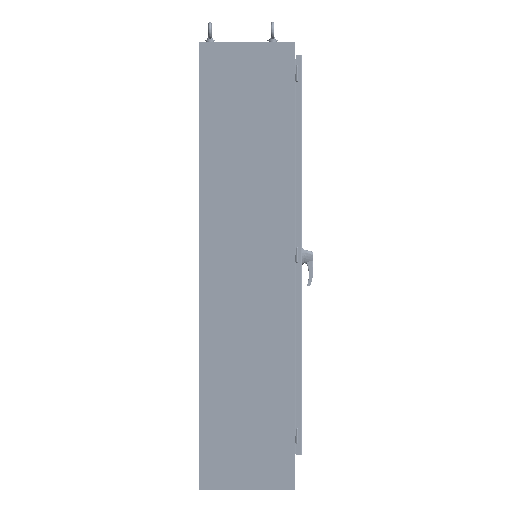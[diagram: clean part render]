
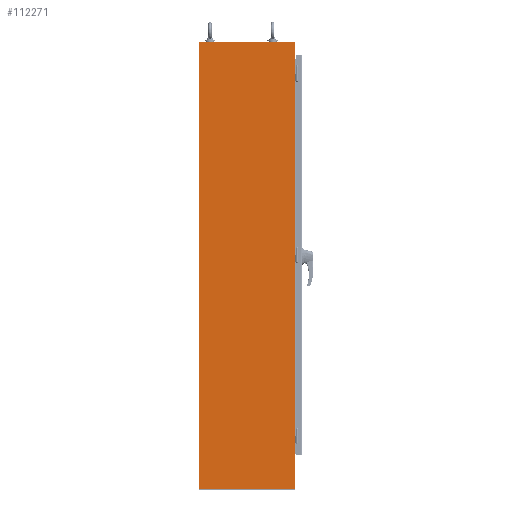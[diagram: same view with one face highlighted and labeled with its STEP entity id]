
A CAD part, left-side view. The second image highlights one B-rep face of the part: STEP entity #112271.
In plain terms, the highlighted planar face has unit normal (-1, 0, 0) as drawn and (0, -1, 0) by its records, which use the part's own axes.
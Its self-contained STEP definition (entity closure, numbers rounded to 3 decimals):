
#12707=CIRCLE('',#119727,0.381);
#15673=ORIENTED_EDGE('',*,*,#48151,.F.);
#15674=ORIENTED_EDGE('',*,*,#48152,.T.);
#15675=ORIENTED_EDGE('',*,*,#48091,.T.);
#15676=ORIENTED_EDGE('',*,*,#48153,.T.);
#15677=ORIENTED_EDGE('',*,*,#48154,.T.);
#15678=ORIENTED_EDGE('',*,*,#48155,.T.);
#15679=ORIENTED_EDGE('',*,*,#48156,.F.);
#48091=EDGE_CURVE('',#64475,#64474,#75628,.T.);
#48151=EDGE_CURVE('',#64514,#64526,#12707,.T.);
#48152=EDGE_CURVE('',#64514,#64475,#75677,.T.);
#48153=EDGE_CURVE('',#64474,#64527,#75678,.T.);
#48154=EDGE_CURVE('',#64527,#64528,#75679,.T.);
#48155=EDGE_CURVE('',#64528,#64529,#75680,.T.);
#48156=EDGE_CURVE('',#64526,#64529,#75681,.T.);
#64474=VERTEX_POINT('',#153237);
#64475=VERTEX_POINT('',#153239);
#64514=VERTEX_POINT('',#153323);
#64526=VERTEX_POINT('',#153356);
#64527=VERTEX_POINT('',#153359);
#64528=VERTEX_POINT('',#153361);
#64529=VERTEX_POINT('',#153363);
#75628=LINE('',#153238,#83562);
#75677=LINE('',#153357,#83611);
#75678=LINE('',#153358,#83612);
#75679=LINE('',#153360,#83613);
#75680=LINE('',#153362,#83614);
#75681=LINE('',#153364,#83615);
#83562=VECTOR('',#128810,1000.);
#83611=VECTOR('',#128895,1000.);
#83612=VECTOR('',#128896,1000.);
#83613=VECTOR('',#128897,1000.);
#83614=VECTOR('',#128898,1000.);
#83615=VECTOR('',#128899,1000.);
#91405=EDGE_LOOP('',(#15673,#15674,#15675,#15676,#15677,#15678,#15679));
#99377=FACE_BOUND('',#91405,.T.);
#107138=PLANE('',#119726);
#112271=ADVANCED_FACE('',(#99377),#107138,.T.);
#119726=AXIS2_PLACEMENT_3D('',#153354,#128891,#128892);
#119727=AXIS2_PLACEMENT_3D('',#153355,#128893,#128894);
#128810=DIRECTION('',(-1.,0.,0.));
#128891=DIRECTION('',(0.,-1.,0.));
#128892=DIRECTION('',(0.,0.,-1.));
#128893=DIRECTION('',(0.,-1.,0.));
#128894=DIRECTION('',(0.,0.,1.));
#128895=DIRECTION('',(0.,0.,1.));
#128896=DIRECTION('',(0.,0.,-1.));
#128897=DIRECTION('',(1.,0.,0.));
#128898=DIRECTION('',(0.,0.,1.));
#128899=DIRECTION('',(1.,0.,0.));
#153237=CARTESIAN_POINT('',(0.,0.,2131.949));
#153238=CARTESIAN_POINT('',(455.549,0.,2131.949));
#153239=CARTESIAN_POINT('',(454.33,0.,2131.949));
#153323=CARTESIAN_POINT('',(454.33,0.,171.323));
#153354=CARTESIAN_POINT('',(0.,0.,0.));
#153355=CARTESIAN_POINT('',(454.33,0.,170.942));
#153356=CARTESIAN_POINT('',(454.33,0.,170.561));
#153357=CARTESIAN_POINT('',(454.33,0.,171.323));
#153358=CARTESIAN_POINT('',(0.,0.,2131.949));
#153359=CARTESIAN_POINT('',(0.,0.,0.));
#153360=CARTESIAN_POINT('',(0.,0.,0.));
#153361=CARTESIAN_POINT('',(455.549,0.,0.));
#153362=CARTESIAN_POINT('',(455.549,0.,0.));
#153363=CARTESIAN_POINT('',(455.549,0.,170.561));
#153364=CARTESIAN_POINT('',(454.33,0.,170.561));
